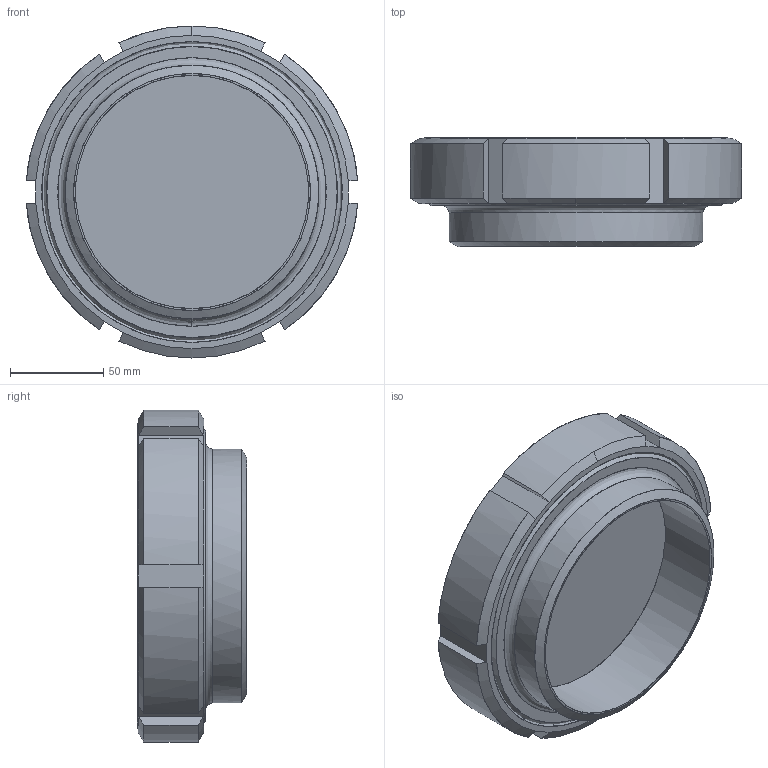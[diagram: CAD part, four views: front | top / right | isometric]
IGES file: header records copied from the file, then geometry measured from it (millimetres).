
Start section: C
Global section: file name: MV 125.igs; native system: By Siemens PLM Incorporated; preprocessor: XPlus GENERIC/IGES 18.0.17; author: Author; organization: Title; date: 20160118.151843; units: millimetre
Bounding box: 177.59 x 58.5 x 178 mm (x, y, z)
Surface area: 178495 mm2 (no closed solid volume)
Topology: 0 solids, 0 shells, 82 faces, 418 edges, 418 vertices
Faces by surface type: bspline 82
